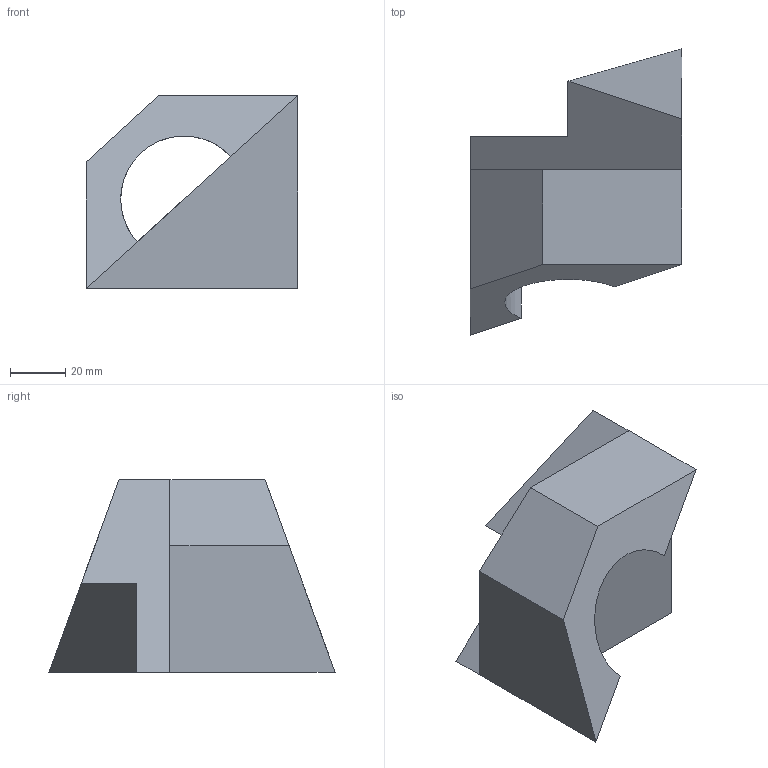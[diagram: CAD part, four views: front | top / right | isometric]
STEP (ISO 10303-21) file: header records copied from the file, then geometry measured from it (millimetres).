
FILE_DESCRIPTION(/* description */ (''),/* implementation_level */ '2;1');
FILE_NAME(/* name */ 'C:/Users/USER/Desktop/720709R1003/720709R1003.step',/* time_stamp */ '2022-07-15T11:57:42+09:00',/* author */ (''),/* organization */ (''),/* preprocessor_version */ 'ST-DEVELOPER v19',/* originating_system */ 'Autodesk Translation Framework v11.7.0.108',/* authorisation */ '');
FILE_SCHEMA (('AUTOMOTIVE_DESIGN { 1 0 10303 214 3 1 1 }'));
Length unit declared in the file: millimetre
Products named in the file (1): (저장되지 않음)
Bounding box: 77 x 104 x 70 mm (x, y, z)
Volume: 181127.5 mm3; surface area: 29544.9 mm2
Topology: 1 solids, 1 shells, 18 faces, 47 edges, 29 vertices
Faces by surface type: plane 17, cylinder 1
Entity records: 574 total; most frequent: CARTESIAN_POINT 95, ORIENTED_EDGE 94, DIRECTION 87, EDGE_CURVE 47, LINE 45, VECTOR 45, VERTEX_POINT 29, AXIS2_PLACEMENT_3D 21
